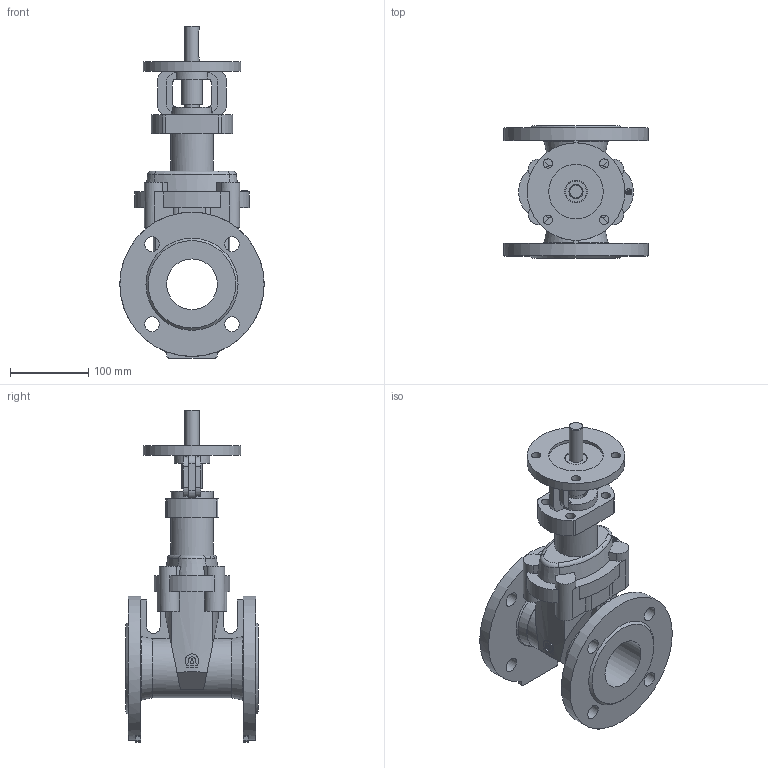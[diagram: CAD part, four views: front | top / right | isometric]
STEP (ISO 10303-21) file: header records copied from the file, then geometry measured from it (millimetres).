
FILE_DESCRIPTION(('STEP AP203'), '1');
FILE_NAME('Çàäâèæêà 47GV.M DN65 ñ ïåðåõîäîì ïîä ISO ôëàíåö', '', ('UNSPECIFIED'), ('UNSPECIFIED'), 'ASCON STEP Converter 1.6', 'ASCON Math Kernel', '');
FILE_SCHEMA(('CONFIG_CONTROL_DESIGN'));
Length unit declared in the file: millimetre
Bounding box: 185 x 170 x 425.5 mm (x, y, z)
Volume: 2351153.3 mm3; surface area: 325059.9 mm2
Topology: 2 solids, 3 shells, 237 faces, 639 edges, 424 vertices
Faces by surface type: plane 114, cylinder 105, cone 10, torus 8
Full cylindrical faces by diameter (mm): 6.647 x1, 12 x8, 18 x2, 19 x8, 27 x1, 29 x2, 52 x1, 55 x1, 65 x1, 70 x1, 125 x1, 185 x2
Entity records: 10862 total; most frequent: CARTESIAN_POINT 2933, DIRECTION 1260, ORIENTED_EDGE 1210, EDGE_CURVE 605, AXIS2_PLACEMENT_3D 485, VERTEX_POINT 423, EDGE_LOOP 324, LINE 290
